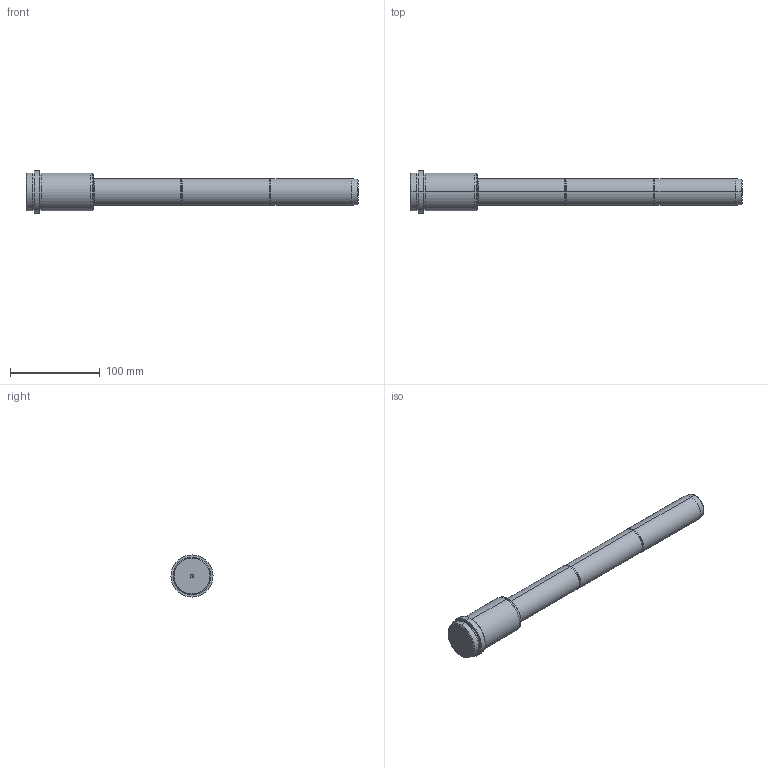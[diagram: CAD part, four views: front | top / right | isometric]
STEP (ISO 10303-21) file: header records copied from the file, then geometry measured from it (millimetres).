
FILE_DESCRIPTION( ( 'STEP AP203' ), '1' );
FILE_NAME( 'C:/Projects/D03 - 30x66x295.step', '2003-01-03T21:48:54', ( ' ' ), ( ' ' ), 'XStep 1.0', ' ', ' ' );
FILE_SCHEMA( ( 'CONFIG_CONTROL_DESIGN' ) );
Length unit declared in the file: metre
Products named in the file (1): 1
Bounding box: 370 x 47 x 47 mm (x, y, z)
Volume: 313524.1 mm3; surface area: 41254.5 mm2
Topology: 1 solids, 1 shells, 56 faces, 112 edges, 64 vertices
Faces by surface type: revolution 36, bspline 20
Entity records: 1691 total; most frequent: CARTESIAN_POINT 513, ORIENTED_EDGE 220, DIRECTION 218, EDGE_CURVE 110, AXIS2_PLACEMENT_3D 73, CIRCLE 72, EDGE_LOOP 64, VERTEX_POINT 64
